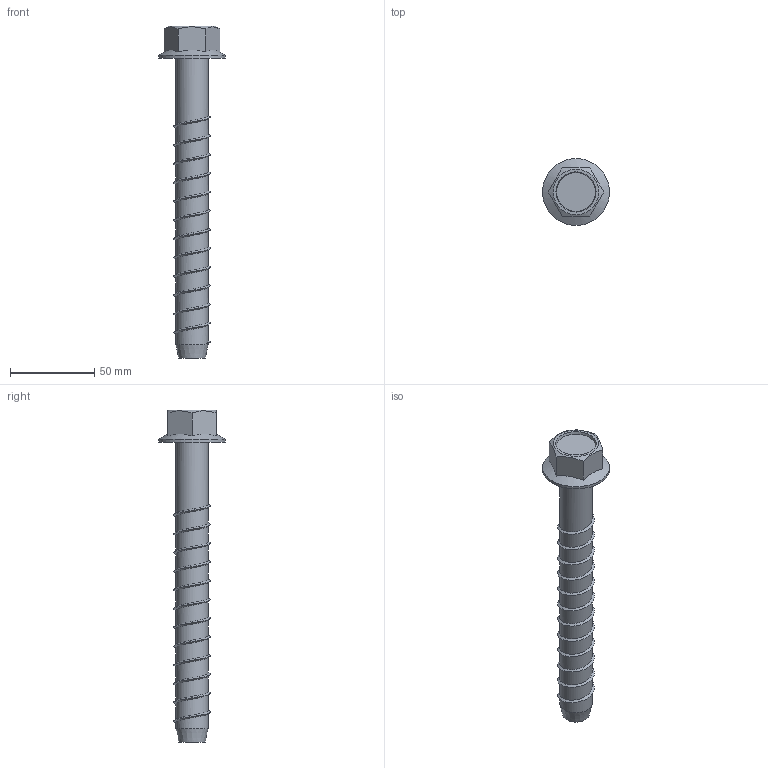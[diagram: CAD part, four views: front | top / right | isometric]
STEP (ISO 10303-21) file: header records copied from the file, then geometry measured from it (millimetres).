
FILE_DESCRIPTION(/* description */ (''),/* implementation_level */ '2;1');
FILE_NAME(/* name */ 'C:\001_Work\Designs\SAST\SAST-0.750 x 7.000.stp',/* time_stamp */ '2015-10-10T17:57:09-04:00',/* author */ ('rramoutar'),/* organization */ ('Mason Industries Inc.'),/* preprocessor_version */ 'ST-DEVELOPER v15.6',/* originating_system */ 'Autodesk Inventor 2015',/* authorisation */ '');
FILE_SCHEMA (('AUTOMOTIVE_DESIGN { 1 0 10303 214 3 1 1 }'));
Length unit declared in the file: inch
Products named in the file (1): SAST-0.750 x 7.000
Bounding box: 39.69 x 39.69 x 196.85 mm (x, y, z)
Volume: 65422.6 mm3; surface area: 16098.1 mm2
Topology: 1 solids, 1 shells, 36 faces, 86 edges, 54 vertices
Faces by surface type: cylinder 14, plane 10, bspline 8, cone 4
Full cylindrical faces by diameter (mm): 19.05 x13, 39.688 x1
Entity records: 2681 total; most frequent: CARTESIAN_POINT 2232, ORIENTED_EDGE 90, DIRECTION 70, EDGE_CURVE 45, EDGE_LOOP 33, VERTEX_POINT 32, AXIS2_PLACEMENT_3D 29, FACE_OUTER_BOUND 24
